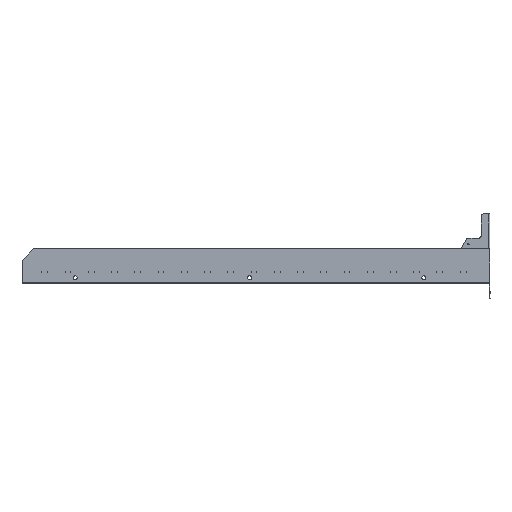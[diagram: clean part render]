
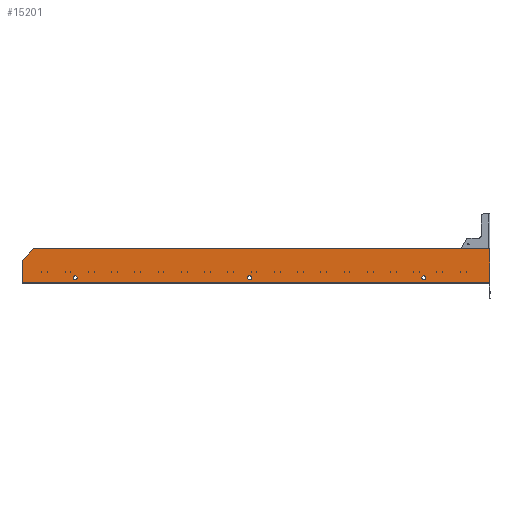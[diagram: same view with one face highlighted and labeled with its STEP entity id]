
A CAD part, left-side view. The second image highlights one B-rep face of the part: STEP entity #15201.
In plain terms, the highlighted planar face has unit normal (-1, 0, 0).
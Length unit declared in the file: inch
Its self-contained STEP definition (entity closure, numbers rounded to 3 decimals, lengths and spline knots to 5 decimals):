
#182 = EDGE_CURVE ( 'NONE', #22664, #7347, #1036, .T. ) ;
#277 = DIRECTION ( 'NONE',  ( -1., 0., 0. ) ) ;
#724 = ORIENTED_EDGE ( 'NONE', *, *, #15495, .F. ) ;
#813 = CARTESIAN_POINT ( 'NONE',  ( 0., 31.1175, 0.664 ) ) ;
#1036 = CIRCLE ( 'NONE', #2241, 0.336 ) ;
#1238 = VERTEX_POINT ( 'NONE', #11000 ) ;
#1432 = DIRECTION ( 'NONE',  ( 0., 0., -1. ) ) ;
#1731 = CARTESIAN_POINT ( 'NONE',  ( 0., 1.1175, 1. ) ) ;
#1818 = DIRECTION ( 'NONE',  ( 0., 0.707, -0.707 ) ) ;
#1928 = DIRECTION ( 'NONE',  ( -1., 0., 0. ) ) ;
#1933 = ORIENTED_EDGE ( 'NONE', *, *, #4324, .F. ) ;
#2241 = AXIS2_PLACEMENT_3D ( 'NONE', #16804, #277, #13348 ) ;
#2614 = CARTESIAN_POINT ( 'NONE',  ( 0., 1.1175, 1.336 ) ) ;
#2664 = VERTEX_POINT ( 'NONE', #8334 ) ;
#2730 = DIRECTION ( 'NONE',  ( 0., 0., 1. ) ) ;
#3414 = DIRECTION ( 'NONE',  ( 0., 0., 1. ) ) ;
#3658 = CARTESIAN_POINT ( 'NONE',  ( 0., 31.1175, 1. ) ) ;
#3730 = EDGE_LOOP ( 'NONE', ( #724, #3977, #18506, #15594, #5095 ) ) ;
#3977 = ORIENTED_EDGE ( 'NONE', *, *, #12346, .T. ) ;
#3988 = ORIENTED_EDGE ( 'NONE', *, *, #18293, .F. ) ;
#4007 = CARTESIAN_POINT ( 'NONE',  ( 0., -40.275, 0.208 ) ) ;
#4180 = EDGE_CURVE ( 'NONE', #7347, #22664, #17551, .T. ) ;
#4324 = EDGE_CURVE ( 'NONE', #19038, #5873, #6135, .T. ) ;
#4938 = DIRECTION ( 'NONE',  ( 0., 0., 1. ) ) ;
#5095 = ORIENTED_EDGE ( 'NONE', *, *, #23168, .T. ) ;
#5186 = ORIENTED_EDGE ( 'NONE', *, *, #182, .F. ) ;
#5195 = VERTEX_POINT ( 'NONE', #10348 ) ;
#5262 = AXIS2_PLACEMENT_3D ( 'NONE', #22039, #21811, #4938 ) ;
#5866 = DIRECTION ( 'NONE',  ( 0., 0., 1. ) ) ;
#5873 = VERTEX_POINT ( 'NONE', #6437 ) ;
#6035 = AXIS2_PLACEMENT_3D ( 'NONE', #9196, #18327, #1432 ) ;
#6135 = CIRCLE ( 'NONE', #18359, 0.336 ) ;
#6437 = CARTESIAN_POINT ( 'NONE',  ( 0., 31.1175, 1.336 ) ) ;
#6464 = CARTESIAN_POINT ( 'NONE',  ( 0., 40.275, 6. ) ) ;
#6978 = FACE_BOUND ( 'NONE', #14506, .T. ) ;
#6994 = DIRECTION ( 'NONE',  ( -1., 0., 0. ) ) ;
#7091 = FACE_BOUND ( 'NONE', #16941, .T. ) ;
#7344 = PLANE ( 'NONE',  #6035 ) ;
#7347 = VERTEX_POINT ( 'NONE', #22035 ) ;
#8334 = CARTESIAN_POINT ( 'NONE',  ( 0., 38.275, 6. ) ) ;
#8520 = CARTESIAN_POINT ( 'NONE',  ( 0., -40.275, 0. ) ) ;
#8595 = EDGE_CURVE ( 'NONE', #15831, #20831, #20216, .T. ) ;
#8855 = AXIS2_PLACEMENT_3D ( 'NONE', #1731, #18257, #20215 ) ;
#9080 = CARTESIAN_POINT ( 'NONE',  ( 0., -28.8825, 1. ) ) ;
#9094 = VERTEX_POINT ( 'NONE', #4007 ) ;
#9196 = CARTESIAN_POINT ( 'NONE',  ( 0., 40.275, 0. ) ) ;
#9331 = DIRECTION ( 'NONE',  ( -1., 0., 0. ) ) ;
#10088 = AXIS2_PLACEMENT_3D ( 'NONE', #9080, #6994, #12432 ) ;
#10145 = VECTOR ( 'NONE', #2730, 39.37008 ) ;
#10348 = CARTESIAN_POINT ( 'NONE',  ( 0., -40.275, 6. ) ) ;
#10565 = DIRECTION ( 'NONE',  ( 0., 0., 1. ) ) ;
#10936 = AXIS2_PLACEMENT_3D ( 'NONE', #22261, #9331, #3414 ) ;
#11000 = CARTESIAN_POINT ( 'NONE',  ( 0., 40.275, 4. ) ) ;
#12346 = EDGE_CURVE ( 'NONE', #2664, #1238, #22264, .T. ) ;
#12432 = DIRECTION ( 'NONE',  ( 0., 0., 1. ) ) ;
#13348 = DIRECTION ( 'NONE',  ( 0., 0., 1. ) ) ;
#13666 = CARTESIAN_POINT ( 'NONE',  ( 0., 1.1175, 0.664 ) ) ;
#13839 = VECTOR ( 'NONE', #20923, 39.37008 ) ;
#13988 = DIRECTION ( 'NONE',  ( 0., -1., 0. ) ) ;
#14267 = CARTESIAN_POINT ( 'NONE',  ( 0., 40.275, 0. ) ) ;
#14506 = EDGE_LOOP ( 'NONE', ( #23859, #5186 ) ) ;
#14752 = FACE_BOUND ( 'NONE', #23491, .T. ) ;
#14846 = EDGE_CURVE ( 'NONE', #20831, #15831, #19467, .T. ) ;
#15107 = VECTOR ( 'NONE', #1818, 39.37008 ) ;
#15201 = ADVANCED_FACE ( 'NONE', ( #14752, #6978, #7091, #18561 ), #7344, .F. ) ;
#15495 = EDGE_CURVE ( 'NONE', #2664, #5195, #23338, .T. ) ;
#15594 = ORIENTED_EDGE ( 'NONE', *, *, #20882, .T. ) ;
#15831 = VERTEX_POINT ( 'NONE', #2614 ) ;
#16477 = CARTESIAN_POINT ( 'NONE',  ( 0., 38.275, 6. ) ) ;
#16804 = CARTESIAN_POINT ( 'NONE',  ( 0., -28.8825, 1. ) ) ;
#16941 = EDGE_LOOP ( 'NONE', ( #22911, #23326 ) ) ;
#17345 = LINE ( 'NONE', #19089, #13839 ) ;
#17551 = CIRCLE ( 'NONE', #10088, 0.336 ) ;
#17678 = CARTESIAN_POINT ( 'NONE',  ( 0., -28.8825, 0.664 ) ) ;
#17897 = LINE ( 'NONE', #8520, #10145 ) ;
#18257 = DIRECTION ( 'NONE',  ( -1., 0., 0. ) ) ;
#18293 = EDGE_CURVE ( 'NONE', #5873, #19038, #21542, .T. ) ;
#18327 = DIRECTION ( 'NONE',  ( 1., 0., 0. ) ) ;
#18359 = AXIS2_PLACEMENT_3D ( 'NONE', #3658, #1928, #5866 ) ;
#18506 = ORIENTED_EDGE ( 'NONE', *, *, #19378, .F. ) ;
#18561 = FACE_OUTER_BOUND ( 'NONE', #3730, .T. ) ;
#18869 = VECTOR ( 'NONE', #13988, 39.37008 ) ;
#19038 = VERTEX_POINT ( 'NONE', #813 ) ;
#19089 = CARTESIAN_POINT ( 'NONE',  ( 0., 40.275, 0.208 ) ) ;
#19378 = EDGE_CURVE ( 'NONE', #23000, #1238, #23616, .T. ) ;
#19467 = CIRCLE ( 'NONE', #8855, 0.336 ) ;
#20215 = DIRECTION ( 'NONE',  ( 0., 0., 1. ) ) ;
#20216 = CIRCLE ( 'NONE', #5262, 0.336 ) ;
#20831 = VERTEX_POINT ( 'NONE', #13666 ) ;
#20838 = VECTOR ( 'NONE', #10565, 39.37008 ) ;
#20882 = EDGE_CURVE ( 'NONE', #23000, #9094, #17345, .T. ) ;
#20923 = DIRECTION ( 'NONE',  ( 0., -1., 0. ) ) ;
#21542 = CIRCLE ( 'NONE', #10936, 0.336 ) ;
#21811 = DIRECTION ( 'NONE',  ( -1., 0., 0. ) ) ;
#22035 = CARTESIAN_POINT ( 'NONE',  ( 0., -28.8825, 1.336 ) ) ;
#22039 = CARTESIAN_POINT ( 'NONE',  ( 0., 1.1175, 1. ) ) ;
#22261 = CARTESIAN_POINT ( 'NONE',  ( 0., 31.1175, 1. ) ) ;
#22264 = LINE ( 'NONE', #16477, #15107 ) ;
#22664 = VERTEX_POINT ( 'NONE', #17678 ) ;
#22911 = ORIENTED_EDGE ( 'NONE', *, *, #8595, .F. ) ;
#23000 = VERTEX_POINT ( 'NONE', #23793 ) ;
#23168 = EDGE_CURVE ( 'NONE', #9094, #5195, #17897, .T. ) ;
#23326 = ORIENTED_EDGE ( 'NONE', *, *, #14846, .F. ) ;
#23338 = LINE ( 'NONE', #6464, #18869 ) ;
#23491 = EDGE_LOOP ( 'NONE', ( #3988, #1933 ) ) ;
#23616 = LINE ( 'NONE', #14267, #20838 ) ;
#23793 = CARTESIAN_POINT ( 'NONE',  ( 0., 40.275, 0.208 ) ) ;
#23859 = ORIENTED_EDGE ( 'NONE', *, *, #4180, .F. ) ;
